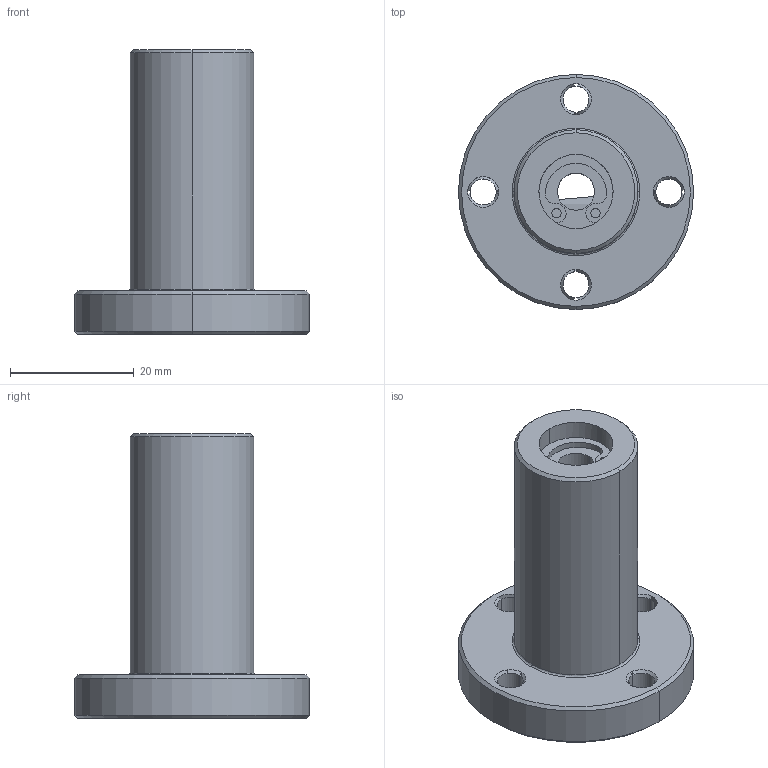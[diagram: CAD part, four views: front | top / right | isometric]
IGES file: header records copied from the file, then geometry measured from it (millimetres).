
Start section: 3D InterOp IGES (Version 21 0 1), Spatial Corp. Copyright (c) 1999-2007.
Global section: file name: LCFD-6AVUU.igs; native system: Spatial Corp.; preprocessor: 3D InterOp GENERIC/IGES 3.0; author: Noname; organization: Noname; date: 20220517.163447; units: millimetre
Bounding box: 38 x 38 x 46 mm (x, y, z)
Surface area: 6677.5 mm2 (no closed solid volume)
Topology: 0 solids, 0 shells, 86 faces, 414 edges, 414 vertices
Faces by surface type: revolution 70, extrusion 16
